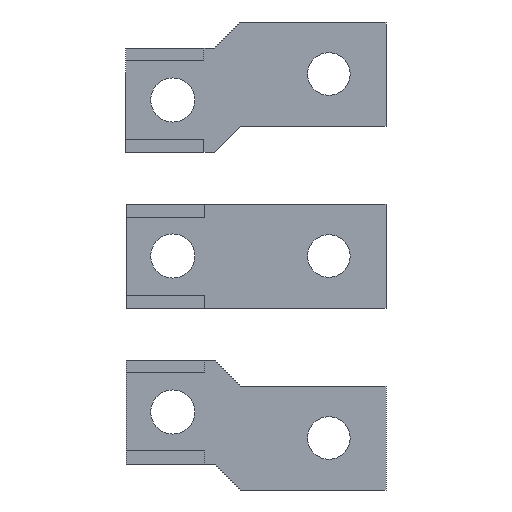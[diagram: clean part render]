
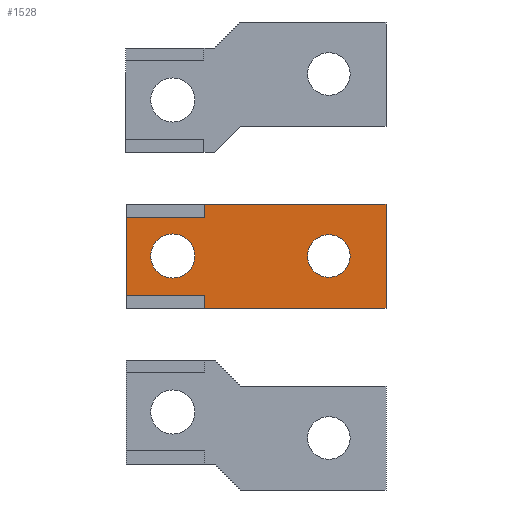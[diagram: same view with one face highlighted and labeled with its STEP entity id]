
A CAD part, front view. The second image highlights one B-rep face of the part: STEP entity #1528.
In plain terms, the highlighted planar face has unit normal (0, -1, 0).
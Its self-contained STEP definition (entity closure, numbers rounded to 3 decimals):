
#22 = CARTESIAN_POINT ( 'NONE',  ( 114.593, -57.749, 44.316 ) ) ;
#32 = VERTEX_POINT ( 'NONE', #2050 ) ;
#47 = EDGE_CURVE ( 'NONE', #621, #1368, #2137, .T. ) ;
#86 = CARTESIAN_POINT ( 'NONE',  ( 75.593, -57.749, 40.916 ) ) ;
#97 = DIRECTION ( 'NONE',  ( 0., 0., -1. ) ) ;
#108 = CARTESIAN_POINT ( 'NONE',  ( 75.593, -57.749, 55.916 ) ) ;
#128 = DIRECTION ( 'NONE',  ( 0., 0., 1. ) ) ;
#134 = LINE ( 'NONE', #1596, #918 ) ;
#142 = CIRCLE ( 'NONE', #1641, 4.1 ) ;
#165 = LINE ( 'NONE', #748, #603 ) ;
#167 = CIRCLE ( 'NONE', #2209, 4.1 ) ;
#201 = VECTOR ( 'NONE', #602, 1000. ) ;
#225 = VERTEX_POINT ( 'NONE', #879 ) ;
#281 = FACE_BOUND ( 'NONE', #1664, .T. ) ;
#286 = DIRECTION ( 'NONE',  ( 0., -1., 0. ) ) ;
#320 = VERTEX_POINT ( 'NONE', #108 ) ;
#403 = DIRECTION ( 'NONE',  ( 0., -1., 0. ) ) ;
#431 = CARTESIAN_POINT ( 'NONE',  ( 75.593, -57.749, 40.916 ) ) ;
#450 = VECTOR ( 'NONE', #1708, 1000. ) ;
#475 = CARTESIAN_POINT ( 'NONE',  ( 90.593, -57.749, 38.416 ) ) ;
#504 = ORIENTED_EDGE ( 'NONE', *, *, #1403, .F. ) ;
#505 = EDGE_CURVE ( 'NONE', #762, #1759, #142, .T. ) ;
#546 = ORIENTED_EDGE ( 'NONE', *, *, #1583, .F. ) ;
#553 = CARTESIAN_POINT ( 'NONE',  ( 84.593, -57.749, 48.416 ) ) ;
#568 = PLANE ( 'NONE',  #1462 ) ;
#587 = CARTESIAN_POINT ( 'NONE',  ( 114.593, -57.749, 52.516 ) ) ;
#601 = AXIS2_PLACEMENT_3D ( 'NONE', #2000, #877, #128 ) ;
#602 = DIRECTION ( 'NONE',  ( 1., 0., 0. ) ) ;
#603 = VECTOR ( 'NONE', #931, 1000. ) ;
#621 = VERTEX_POINT ( 'NONE', #1343 ) ;
#628 = VECTOR ( 'NONE', #1625, 1000. ) ;
#633 = FACE_OUTER_BOUND ( 'NONE', #1196, .T. ) ;
#709 = EDGE_CURVE ( 'NONE', #1368, #225, #1297, .T. ) ;
#748 = CARTESIAN_POINT ( 'NONE',  ( 90.593, -57.749, 55.916 ) ) ;
#762 = VERTEX_POINT ( 'NONE', #22 ) ;
#837 = LINE ( 'NONE', #1693, #450 ) ;
#877 = DIRECTION ( 'NONE',  ( 0., -1., 0. ) ) ;
#879 = CARTESIAN_POINT ( 'NONE',  ( 125.593, -57.749, 38.416 ) ) ;
#881 = EDGE_CURVE ( 'NONE', #1759, #762, #167, .T. ) ;
#906 = DIRECTION ( 'NONE',  ( 0., 0., 1. ) ) ;
#918 = VECTOR ( 'NONE', #1040, 1000. ) ;
#931 = DIRECTION ( 'NONE',  ( 0., 0., 1. ) ) ;
#932 = VERTEX_POINT ( 'NONE', #431 ) ;
#945 = LINE ( 'NONE', #2356, #2158 ) ;
#989 = ORIENTED_EDGE ( 'NONE', *, *, #2153, .F. ) ;
#1040 = DIRECTION ( 'NONE',  ( 1., 0., 0. ) ) ;
#1089 = LINE ( 'NONE', #1269, #1458 ) ;
#1094 = ORIENTED_EDGE ( 'NONE', *, *, #709, .F. ) ;
#1110 = CARTESIAN_POINT ( 'NONE',  ( 90.593, -57.749, 40.916 ) ) ;
#1137 = ORIENTED_EDGE ( 'NONE', *, *, #1761, .F. ) ;
#1166 = ORIENTED_EDGE ( 'NONE', *, *, #47, .F. ) ;
#1196 = EDGE_LOOP ( 'NONE', ( #1198, #1094, #1166, #504, #546, #2414, #1731, #1253 ) ) ;
#1198 = ORIENTED_EDGE ( 'NONE', *, *, #1418, .F. ) ;
#1224 = VERTEX_POINT ( 'NONE', #1825 ) ;
#1253 = ORIENTED_EDGE ( 'NONE', *, *, #2309, .F. ) ;
#1269 = CARTESIAN_POINT ( 'NONE',  ( 90.593, -57.749, 38.416 ) ) ;
#1297 = LINE ( 'NONE', #2349, #1497 ) ;
#1322 = CARTESIAN_POINT ( 'NONE',  ( 90.593, -57.749, 58.416 ) ) ;
#1323 = CARTESIAN_POINT ( 'NONE',  ( 125.593, -57.749, 58.416 ) ) ;
#1343 = CARTESIAN_POINT ( 'NONE',  ( 90.593, -57.749, 58.416 ) ) ;
#1368 = VERTEX_POINT ( 'NONE', #1323 ) ;
#1403 = EDGE_CURVE ( 'NONE', #1224, #621, #165, .T. ) ;
#1418 = EDGE_CURVE ( 'NONE', #225, #1985, #837, .T. ) ;
#1458 = VECTOR ( 'NONE', #906, 1000. ) ;
#1462 = AXIS2_PLACEMENT_3D ( 'NONE', #553, #2235, #2411 ) ;
#1479 = CARTESIAN_POINT ( 'NONE',  ( 114.593, -57.749, 48.416 ) ) ;
#1481 = VERTEX_POINT ( 'NONE', #1110 ) ;
#1497 = VECTOR ( 'NONE', #97, 1000. ) ;
#1515 = CARTESIAN_POINT ( 'NONE',  ( 84.593, -57.749, 48.416 ) ) ;
#1528 = ADVANCED_FACE ( 'NONE', ( #281, #2130, #633 ), #568, .F. ) ;
#1566 = CARTESIAN_POINT ( 'NONE',  ( 114.593, -57.749, 48.416 ) ) ;
#1575 = ORIENTED_EDGE ( 'NONE', *, *, #505, .F. ) ;
#1583 = EDGE_CURVE ( 'NONE', #320, #1224, #134, .T. ) ;
#1596 = CARTESIAN_POINT ( 'NONE',  ( 75.593, -57.749, 55.916 ) ) ;
#1625 = DIRECTION ( 'NONE',  ( 1., 0., 0. ) ) ;
#1641 = AXIS2_PLACEMENT_3D ( 'NONE', #1479, #2097, #1677 ) ;
#1664 = EDGE_LOOP ( 'NONE', ( #1770, #1575 ) ) ;
#1677 = DIRECTION ( 'NONE',  ( 0., 0., -1. ) ) ;
#1693 = CARTESIAN_POINT ( 'NONE',  ( 125.593, -57.749, 38.416 ) ) ;
#1708 = DIRECTION ( 'NONE',  ( -1., 0., 0. ) ) ;
#1731 = ORIENTED_EDGE ( 'NONE', *, *, #2105, .T. ) ;
#1759 = VERTEX_POINT ( 'NONE', #587 ) ;
#1761 = EDGE_CURVE ( 'NONE', #32, #2406, #1945, .T. ) ;
#1770 = ORIENTED_EDGE ( 'NONE', *, *, #881, .F. ) ;
#1787 = DIRECTION ( 'NONE',  ( 0., 0., 1. ) ) ;
#1825 = CARTESIAN_POINT ( 'NONE',  ( 90.593, -57.749, 55.916 ) ) ;
#1914 = CARTESIAN_POINT ( 'NONE',  ( 84.593, -57.749, 52.666 ) ) ;
#1945 = CIRCLE ( 'NONE', #2160, 4.25 ) ;
#1985 = VERTEX_POINT ( 'NONE', #475 ) ;
#2000 = CARTESIAN_POINT ( 'NONE',  ( 84.593, -57.749, 48.416 ) ) ;
#2015 = EDGE_CURVE ( 'NONE', #932, #320, #945, .T. ) ;
#2050 = CARTESIAN_POINT ( 'NONE',  ( 84.593, -57.749, 44.166 ) ) ;
#2097 = DIRECTION ( 'NONE',  ( 0., -1., 0. ) ) ;
#2105 = EDGE_CURVE ( 'NONE', #932, #1481, #2250, .T. ) ;
#2130 = FACE_BOUND ( 'NONE', #2145, .T. ) ;
#2137 = LINE ( 'NONE', #1322, #201 ) ;
#2145 = EDGE_LOOP ( 'NONE', ( #1137, #989 ) ) ;
#2153 = EDGE_CURVE ( 'NONE', #2406, #32, #2367, .T. ) ;
#2158 = VECTOR ( 'NONE', #1787, 1000. ) ;
#2160 = AXIS2_PLACEMENT_3D ( 'NONE', #1515, #403, #2273 ) ;
#2209 = AXIS2_PLACEMENT_3D ( 'NONE', #1566, #286, #2324 ) ;
#2235 = DIRECTION ( 'NONE',  ( 0., 1., 0. ) ) ;
#2250 = LINE ( 'NONE', #86, #628 ) ;
#2273 = DIRECTION ( 'NONE',  ( 0., 0., -1. ) ) ;
#2309 = EDGE_CURVE ( 'NONE', #1985, #1481, #1089, .T. ) ;
#2324 = DIRECTION ( 'NONE',  ( 0., 0., 1. ) ) ;
#2349 = CARTESIAN_POINT ( 'NONE',  ( 125.593, -57.749, 58.416 ) ) ;
#2356 = CARTESIAN_POINT ( 'NONE',  ( 75.593, -57.749, 40.916 ) ) ;
#2367 = CIRCLE ( 'NONE', #601, 4.25 ) ;
#2406 = VERTEX_POINT ( 'NONE', #1914 ) ;
#2411 = DIRECTION ( 'NONE',  ( 0., 0., 1. ) ) ;
#2414 = ORIENTED_EDGE ( 'NONE', *, *, #2015, .F. ) ;
